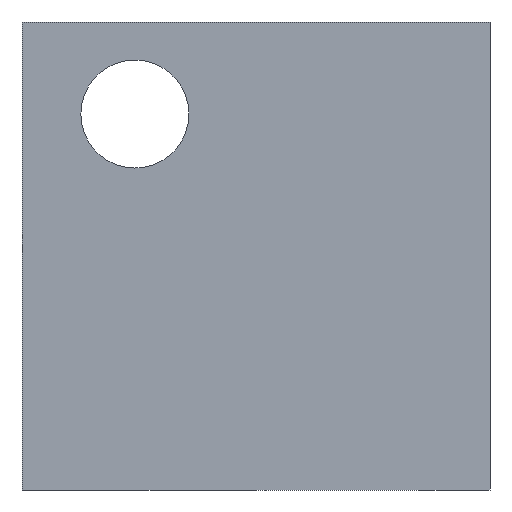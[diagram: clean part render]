
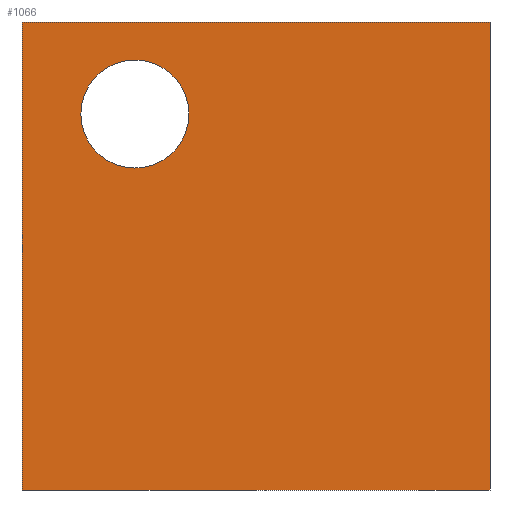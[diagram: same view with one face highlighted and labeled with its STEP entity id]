
A CAD part, left-side view. The second image highlights one B-rep face of the part: STEP entity #1066.
In plain terms, the highlighted planar face has unit normal (-1, 0, 0).
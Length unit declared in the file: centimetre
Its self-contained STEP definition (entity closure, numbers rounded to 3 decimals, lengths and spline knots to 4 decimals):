
#20 = VERTEX_POINT ( 'NONE', #427 ) ;
#55 = VECTOR ( 'NONE', #738, 100. ) ;
#103 = CARTESIAN_POINT ( 'NONE',  ( 0., 0., 1000. ) ) ;
#125 = DIRECTION ( 'NONE',  ( 1., 0., 0. ) ) ;
#137 = CARTESIAN_POINT ( 'NONE',  ( 0., 0., 1000. ) ) ;
#170 = EDGE_CURVE ( 'NONE', #1202, #752, #256, .T. ) ;
#191 = VERTEX_POINT ( 'NONE', #103 ) ;
#216 = ORIENTED_EDGE ( 'NONE', *, *, #758, .T. ) ;
#256 = CIRCLE ( 'NONE', #498, 115.4107 ) ;
#311 = CARTESIAN_POINT ( 'NONE',  ( 0., 1000., 1000. ) ) ;
#316 = DIRECTION ( 'NONE',  ( 0., -1., 0. ) ) ;
#350 = DIRECTION ( 'NONE',  ( 0., -1., 0. ) ) ;
#355 = DIRECTION ( 'NONE',  ( 0., 0., -1. ) ) ;
#365 = CARTESIAN_POINT ( 'NONE',  ( 0., 1000., 1000. ) ) ;
#378 = FACE_BOUND ( 'NONE', #1209, .T. ) ;
#379 = EDGE_CURVE ( 'NONE', #822, #191, #1105, .T. ) ;
#387 = PLANE ( 'NONE',  #811 ) ;
#408 = LINE ( 'NONE', #1049, #831 ) ;
#427 = CARTESIAN_POINT ( 'NONE',  ( 0., 0., 0. ) ) ;
#462 = LINE ( 'NONE', #137, #1222 ) ;
#490 = CARTESIAN_POINT ( 'NONE',  ( 0., 758.8481, 687.867 ) ) ;
#498 = AXIS2_PLACEMENT_3D ( 'NONE', #617, #938, #1238 ) ;
#523 = CIRCLE ( 'NONE', #769, 115.4107 ) ;
#588 = CARTESIAN_POINT ( 'NONE',  ( 0., 1000., 0. ) ) ;
#617 = CARTESIAN_POINT ( 'NONE',  ( 0., 758.8481, 803.2776 ) ) ;
#626 = LINE ( 'NONE', #311, #55 ) ;
#668 = CARTESIAN_POINT ( 'NONE',  ( 0., 758.8481, 803.2776 ) ) ;
#690 = CARTESIAN_POINT ( 'NONE',  ( 0., 1000., 1000. ) ) ;
#719 = ORIENTED_EDGE ( 'NONE', *, *, #981, .F. ) ;
#738 = DIRECTION ( 'NONE',  ( 0., 0., -1. ) ) ;
#752 = VERTEX_POINT ( 'NONE', #1366 ) ;
#758 = EDGE_CURVE ( 'NONE', #822, #1091, #626, .T. ) ;
#769 = AXIS2_PLACEMENT_3D ( 'NONE', #668, #125, #355 ) ;
#776 = ORIENTED_EDGE ( 'NONE', *, *, #902, .T. ) ;
#779 = DIRECTION ( 'NONE',  ( 0., 0., -1. ) ) ;
#811 = AXIS2_PLACEMENT_3D ( 'NONE', #690, #1327, #1127 ) ;
#822 = VERTEX_POINT ( 'NONE', #1172 ) ;
#831 = VECTOR ( 'NONE', #316, 100. ) ;
#902 = EDGE_CURVE ( 'NONE', #752, #1202, #523, .T. ) ;
#904 = FACE_OUTER_BOUND ( 'NONE', #1293, .T. ) ;
#910 = ORIENTED_EDGE ( 'NONE', *, *, #379, .F. ) ;
#938 = DIRECTION ( 'NONE',  ( 1., 0., 0. ) ) ;
#981 = EDGE_CURVE ( 'NONE', #191, #20, #462, .T. ) ;
#1004 = ORIENTED_EDGE ( 'NONE', *, *, #170, .T. ) ;
#1049 = CARTESIAN_POINT ( 'NONE',  ( 0., 1000., 0. ) ) ;
#1066 = ADVANCED_FACE ( 'NONE', ( #378, #904 ), #387, .F. ) ;
#1091 = VERTEX_POINT ( 'NONE', #588 ) ;
#1105 = LINE ( 'NONE', #365, #1265 ) ;
#1127 = DIRECTION ( 'NONE',  ( 0., 0., -1. ) ) ;
#1153 = ORIENTED_EDGE ( 'NONE', *, *, #1237, .T. ) ;
#1172 = CARTESIAN_POINT ( 'NONE',  ( 0., 1000., 1000. ) ) ;
#1202 = VERTEX_POINT ( 'NONE', #490 ) ;
#1209 = EDGE_LOOP ( 'NONE', ( #1004, #776 ) ) ;
#1222 = VECTOR ( 'NONE', #779, 100. ) ;
#1237 = EDGE_CURVE ( 'NONE', #1091, #20, #408, .T. ) ;
#1238 = DIRECTION ( 'NONE',  ( 0., 0., -1. ) ) ;
#1265 = VECTOR ( 'NONE', #350, 100. ) ;
#1293 = EDGE_LOOP ( 'NONE', ( #1153, #719, #910, #216 ) ) ;
#1327 = DIRECTION ( 'NONE',  ( 1., 0., 0. ) ) ;
#1366 = CARTESIAN_POINT ( 'NONE',  ( 0., 758.8481, 918.6883 ) ) ;
